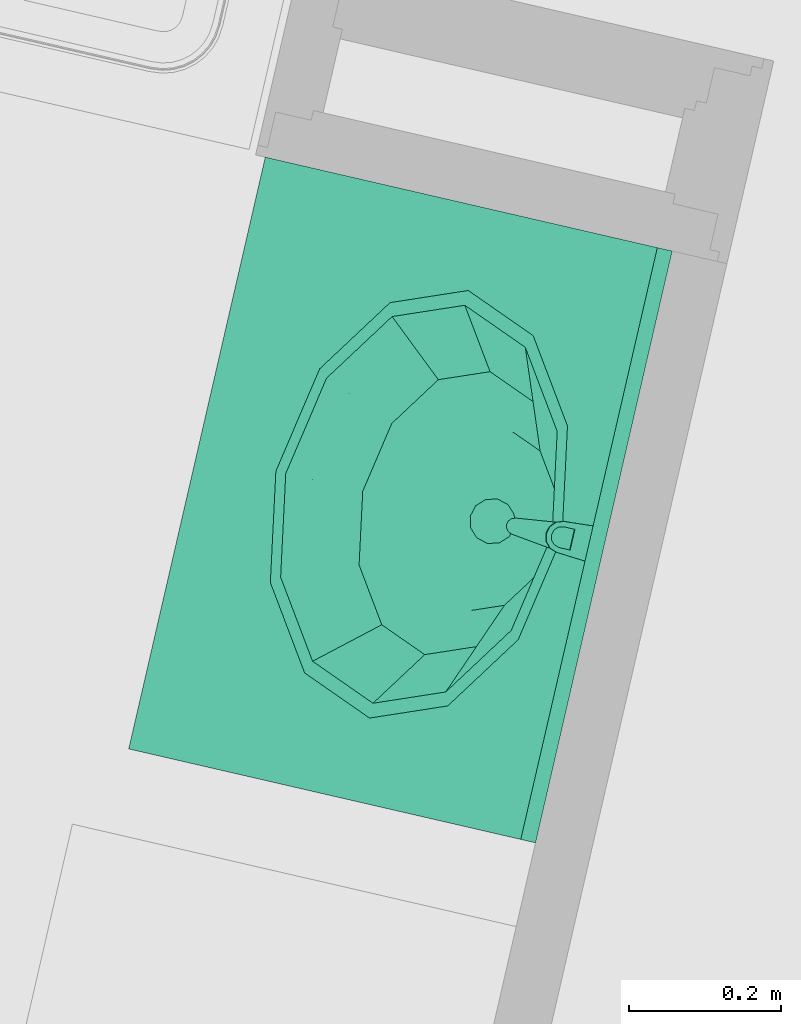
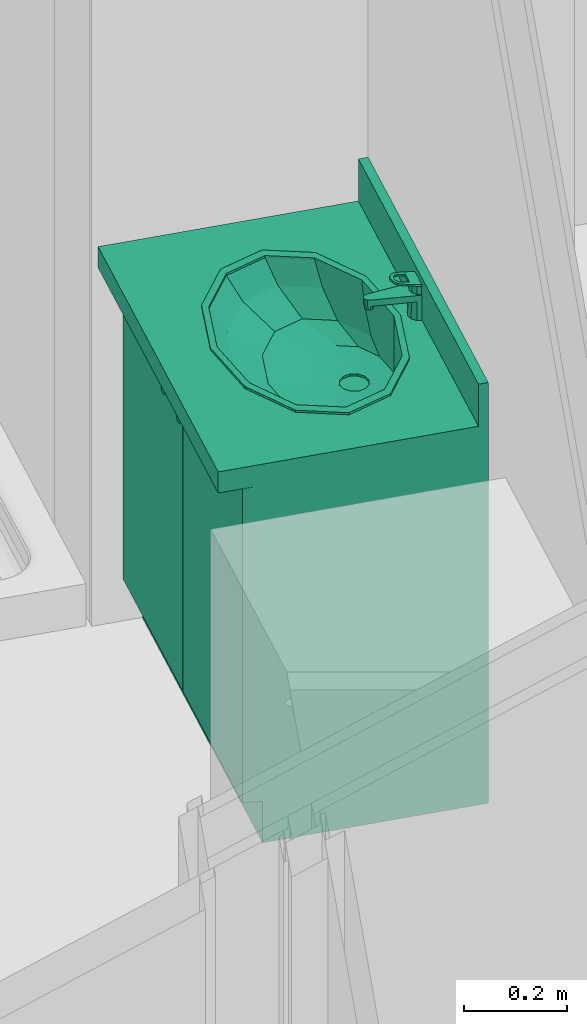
# One storey, part 72 of 91: 1 flow terminal.
"""IFC2X3 building model written with IfcOpenShell, lengths in metres."""

from ifc_helpers import new_model, entity, si_unit, converted_unit, derived_unit, money_unit, direction, frame, origin_with_axes, place, context, subcontext, project, spatial, open_shell, faceted_brep, surface_model, source, transform, mapped, type_object, element, save


model = new_model("IFC2X3")

# Units and contexts
model_context = context("Model", 3, precision=1e-05, world=origin_with_axes(), true_north=direction((0.0, 1.0)))
body_context = subcontext(model_context, "Body", "Model", "MODEL_VIEW")
ifc_project = project(units=[si_unit("LENGTHUNIT", "METRE"), si_unit("AREAUNIT", "SQUARE_METRE"), si_unit("VOLUMEUNIT", "CUBIC_METRE"), converted_unit("PLANEANGLEUNIT", "DEGREE", entity("IfcPlaneAngleMeasure", 0.0174532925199), si_unit("PLANEANGLEUNIT", "RADIAN"), dimensions=[0, 0, 0, 0, 0, 0, 0]), si_unit("SOLIDANGLEUNIT", "STERADIAN"), money_unit("EUR"), converted_unit("TIMEUNIT", "Year", entity("IfcTimeMeasure", 31556926.0), si_unit("TIMEUNIT", "SECOND"), dimensions=[0, 0, 1, 0, 0, 0, 0]), si_unit("MASSUNIT", "GRAM", prefix="KILO"), si_unit("THERMODYNAMICTEMPERATUREUNIT", "DEGREE_CELSIUS"), si_unit("LUMINOUSINTENSITYUNIT", "LUMEN"), si_unit("ENERGYUNIT", "JOULE", prefix="MEGA"), derived_unit("THERMALCONDUCTANCEUNIT", [(si_unit("POWERUNIT", "WATT"), 1), (si_unit("LENGTHUNIT", "METRE"), -1), (si_unit("THERMODYNAMICTEMPERATUREUNIT", "KELVIN"), -1)]), derived_unit("SPECIFICHEATCAPACITYUNIT", [(si_unit("ENERGYUNIT", "JOULE"), 1), (si_unit("MASSUNIT", "GRAM", prefix="KILO"), -1), (si_unit("THERMODYNAMICTEMPERATUREUNIT", "KELVIN"), -1)]), derived_unit("MASSDENSITYUNIT", [(si_unit("MASSUNIT", "GRAM", prefix="KILO"), 1), (si_unit("VOLUMEUNIT", "CUBIC_METRE"), -1)])], contexts=[model_context])

# Site, building, storey
site_placement = place(None, origin_with_axes())
site = spatial("IfcSite", under=ifc_project, at=site_placement, Name="Site", CompositionType="ELEMENT")
building_placement = place(site_placement, origin_with_axes())
building = spatial("IfcBuilding", under=site, at=building_placement, Name="Bâtiment", CompositionType="ELEMENT")
storey_placement = place(building_placement, frame((0.0, 0.0, 5.44), z_axis=(0.0, 0.0, 1.0), x_axis=(1.0, 0.0, 0.0)))
storey = spatial("IfcBuildingStorey", under=building, at=storey_placement, Name="R+2", CompositionType="ELEMENT", Elevation=5.44)

# Flow terminal
sanitary_terminal_type = type_object("IfcSanitaryTerminalType", Name="Lavabo sur meuble 23", PredefinedType="NOTDEFINED")
shared_shape = source(origin_with_axes(), body_context, "Body", "SurfaceModel", [
    faceted_brep([(0.0, 0.09, 0.0), (0.0, 0.09, 0.1), (-0.8, 0.09, 0.1), (-0.8, 0.09, 0.0), (0.0, 0.55, 0.0), (0.0, 0.55, 0.1), (-0.8, 0.55, 0.1), (-0.8, 0.55, 0.0)], [[[0, 1, 2, 3]], [[4, 5, 1, 0]], [[1, 5, 6, 2]], [[3, 2, 6, 7]], [[0, 3, 7, 4]], [[7, 6, 5, 4]]]),
    faceted_brep([(0.0, 0.07, 0.1), (0.0, 0.07, 0.12), (-0.02, 0.07, 0.12), (-0.02, 0.07, 0.1), (0.0, 0.55, 0.1), (0.0, 0.55, 0.12), (-0.02, 0.55, 0.12), (-0.78, 0.55, 0.12), (-0.8, 0.55, 0.12), (-0.8, 0.07, 0.12), (-0.78, 0.07, 0.12), (-0.78, 0.07, 0.1), (-0.8, 0.07, 0.1), (-0.8, 0.55, 0.1), (-0.78, 0.55, 0.1), (-0.02, 0.55, 0.1)], [[[0, 1, 2, 3]], [[4, 5, 1, 0]], [[1, 5, 6, 7, 8, 9, 10, 2]], [[3, 2, 10, 11]], [[0, 3, 11, 12, 13, 14, 15, 4]], [[15, 6, 5, 4]], [[14, 7, 6, 15]], [[13, 8, 7, 14]], [[12, 9, 8, 13]], [[11, 10, 9, 12]]]),
    faceted_brep([(0.0, 0.07, 0.12), (0.0, 0.07, 0.85), (-0.02, 0.07, 0.85), (-0.02, 0.07, 0.12), (0.0, 0.55, 0.12), (0.0, 0.55, 0.85), (-0.8, 0.55, 0.85), (-0.8, 0.07, 0.85), (-0.78, 0.07, 0.85), (-0.78, 0.53, 0.85), (-0.02, 0.53, 0.85), (-0.02, 0.53, 0.12), (-0.78, 0.53, 0.12), (-0.78, 0.07, 0.12), (-0.8, 0.07, 0.12), (-0.8, 0.55, 0.12)], [[[0, 1, 2, 3]], [[4, 5, 1, 0]], [[1, 5, 6, 7, 8, 9, 10, 2]], [[3, 2, 10, 11]], [[0, 3, 11, 12, 13, 14, 15, 4]], [[15, 6, 5, 4]], [[14, 7, 6, 15]], [[13, 8, 7, 14]], [[12, 9, 8, 13]], [[11, 10, 9, 12]]]),
    faceted_brep([(-0.78, 0.07, 0.323333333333), (-0.78, 0.07, 0.343333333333), (-0.78, 0.53, 0.343333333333), (-0.78, 0.53, 0.323333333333), (-0.02, 0.07, 0.323333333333), (-0.02, 0.07, 0.343333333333), (-0.02, 0.53, 0.343333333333), (-0.02, 0.53, 0.323333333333)], [[[0, 1, 2, 3]], [[4, 5, 1, 0]], [[1, 5, 6, 2]], [[3, 2, 6, 7]], [[0, 3, 7, 4]], [[7, 6, 5, 4]]]),
    faceted_brep([(-0.78, 0.07, 0.566666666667), (-0.78, 0.07, 0.586666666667), (-0.78, 0.53, 0.586666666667), (-0.78, 0.53, 0.566666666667), (-0.02, 0.07, 0.566666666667), (-0.02, 0.07, 0.586666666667), (-0.02, 0.53, 0.586666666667), (-0.02, 0.53, 0.566666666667)], [[[0, 1, 2, 3]], [[4, 5, 1, 0]], [[1, 5, 6, 2]], [[3, 2, 6, 7]], [[0, 3, 7, 4]], [[7, 6, 5, 4]]]),
    faceted_brep([(0.0, 0.55, 0.85), (0.0, 0.0, 0.85), (-0.8, 0.0, 0.85), (-0.8, 0.55, 0.85), (-0.535, 0.144115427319, 0.85), (-0.4, 0.12, 0.85), (-0.265, 0.144115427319, 0.85), (-0.166173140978, 0.21, 0.85), (-0.13, 0.3, 0.85), (-0.166173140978, 0.39, 0.85), (-0.265, 0.455884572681, 0.85), (-0.4, 0.48, 0.85), (-0.535, 0.455884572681, 0.85), (-0.633826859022, 0.39, 0.85), (-0.67, 0.3, 0.85), (-0.633826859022, 0.21, 0.85), (0.0, 0.55, 0.9), (0.0, 0.0, 0.9), (-0.8, 0.0, 0.9), (-0.8, 0.55, 0.9), (-0.4, 0.12, 0.9), (-0.535, 0.144115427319, 0.9), (-0.265, 0.144115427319, 0.9), (-0.166173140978, 0.21, 0.9), (-0.13, 0.3, 0.9), (-0.166173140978, 0.39, 0.9), (-0.265, 0.455884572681, 0.9), (-0.4, 0.48, 0.9), (-0.535, 0.455884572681, 0.9), (-0.633826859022, 0.39, 0.9), (-0.67, 0.3, 0.9), (-0.633826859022, 0.21, 0.9)], [[[0, 1, 2, 3], [4, 5, 6, 7, 8, 9, 10, 11, 12, 13, 14, 15]], [[1, 0, 16, 17]], [[2, 1, 17, 18]], [[3, 2, 18, 19]], [[0, 3, 19, 16]], [[20, 5, 4, 21]], [[22, 6, 5, 20]], [[23, 7, 6, 22]], [[24, 8, 7, 23]], [[25, 9, 8, 24]], [[26, 10, 9, 25]], [[27, 11, 10, 26]], [[28, 12, 11, 27]], [[29, 13, 12, 28]], [[30, 14, 13, 29]], [[31, 15, 14, 30]], [[21, 4, 15, 31]], [[18, 17, 16, 19], [28, 27, 26, 25, 24, 23, 22, 20, 21, 31, 30, 29]]]),
    faceted_brep([(0.0, 0.53, 0.9), (0.0, 0.53, 1.0), (-0.8, 0.53, 1.0), (-0.8, 0.53, 0.9), (0.0, 0.55, 0.9), (0.0, 0.55, 1.0), (-0.8, 0.55, 1.0), (-0.8, 0.55, 0.9)], [[[0, 1, 2, 3]], [[4, 5, 1, 0]], [[1, 5, 6, 2]], [[3, 2, 6, 7]], [[0, 3, 7, 4]], [[7, 6, 5, 4]]]),
    faceted_brep([(-0.689, 0.3, 0.905), (-0.650281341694, 0.396691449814, 0.905), (-0.650281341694, 0.396691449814, 0.9), (-0.689, 0.3, 0.9), (-0.650281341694, 0.203308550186, 0.905), (-0.5445, 0.132525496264, 0.905), (-0.4, 0.106617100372, 0.905), (-0.2555, 0.132525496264, 0.905), (-0.149718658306, 0.203308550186, 0.905), (-0.111, 0.3, 0.905), (-0.149718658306, 0.396691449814, 0.905), (-0.2555, 0.467474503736, 0.905), (-0.4, 0.493382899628, 0.905), (-0.5445, 0.467474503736, 0.905), (-0.669, 0.3, 0.905), (-0.632960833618, 0.39, 0.905), (-0.5345, 0.455884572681, 0.905), (-0.4, 0.48, 0.905), (-0.2655, 0.455884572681, 0.905), (-0.167039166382, 0.39, 0.905), (-0.131, 0.3, 0.905), (-0.167039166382, 0.21, 0.905), (-0.2655, 0.144115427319, 0.905), (-0.4, 0.12, 0.905), (-0.5345, 0.144115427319, 0.905), (-0.632960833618, 0.21, 0.905), (-0.5445, 0.467474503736, 0.9), (-0.4, 0.493382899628, 0.9), (-0.2555, 0.467474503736, 0.9), (-0.149718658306, 0.396691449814, 0.9), (-0.111, 0.3, 0.9), (-0.149718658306, 0.203308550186, 0.9), (-0.2555, 0.132525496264, 0.9), (-0.4, 0.106617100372, 0.9), (-0.5445, 0.132525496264, 0.9), (-0.650281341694, 0.203308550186, 0.9), (-0.669, 0.3, 0.9), (-0.632960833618, 0.21, 0.9), (-0.5345, 0.144115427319, 0.9), (-0.4, 0.12, 0.9), (-0.2655, 0.144115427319, 0.9), (-0.167039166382, 0.21, 0.9), (-0.131, 0.3, 0.9), (-0.167039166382, 0.39, 0.9), (-0.2655, 0.455884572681, 0.9), (-0.4, 0.48, 0.9), (-0.5345, 0.455884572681, 0.9), (-0.632960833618, 0.39, 0.9)], [[[0, 1, 2, 3]], [[0, 4, 5, 6, 7, 8, 9, 10, 11, 12, 13, 1], [14, 15, 16, 17, 18, 19, 20, 21, 22, 23, 24, 25]], [[1, 13, 26, 2]], [[3, 2, 26, 27, 28, 29, 30, 31, 32, 33, 34, 35], [36, 37, 38, 39, 40, 41, 42, 43, 44, 45, 46, 47]], [[4, 0, 3, 35]], [[5, 4, 35, 34]], [[6, 5, 34, 33]], [[7, 6, 33, 32]], [[8, 7, 32, 31]], [[9, 8, 31, 30]], [[10, 9, 30, 29]], [[11, 10, 29, 28]], [[12, 11, 28, 27]], [[13, 12, 27, 26]], [[15, 14, 36, 47]], [[16, 15, 47, 46]], [[17, 16, 46, 45]], [[18, 17, 45, 44]], [[19, 18, 44, 43]], [[20, 19, 43, 42]], [[21, 20, 42, 41]], [[22, 21, 41, 40]], [[23, 22, 40, 39]], [[24, 23, 39, 38]], [[25, 24, 38, 37]], [[14, 25, 37, 36]]]),
    surface_model("IfcShellBasedSurfaceModel", [(-0.4, 0.48, 0.9), (-0.5345, 0.455884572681, 0.9), (-0.52105, 0.458296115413, 0.848), (-0.4, 0.48, 0.848), (-0.632960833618, 0.39, 0.9), (-0.609664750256, 0.399, 0.848), (-0.2655, 0.455884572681, 0.9), (-0.27895, 0.458296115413, 0.848), (-0.669, 0.3, 0.9), (-0.6421, 0.318, 0.848), (-0.167039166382, 0.39, 0.9), (-0.190335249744, 0.399, 0.848), (-0.632960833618, 0.21, 0.9), (-0.609664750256, 0.237, 0.848), (-0.131, 0.3, 0.9), (-0.1579, 0.318, 0.848), (-0.5345, 0.144115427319, 0.9), (-0.52105, 0.177703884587, 0.848), (-0.167039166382, 0.21, 0.9), (-0.190335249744, 0.237, 0.848), (-0.4, 0.12, 0.9), (-0.4, 0.156, 0.848), (-0.2655, 0.144115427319, 0.9), (-0.27895, 0.177703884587, 0.848)], [open_shell([[[0, 1, 2, 3]], [[1, 4, 5, 2]], [[6, 0, 3, 7]], [[4, 8, 9, 5]], [[10, 6, 7, 11]], [[8, 12, 13, 9]], [[14, 10, 11, 15]], [[12, 16, 17, 13]], [[18, 14, 15, 19]], [[16, 20, 21, 17]], [[22, 18, 19, 23]], [[20, 22, 23, 21]]])]),
    surface_model("IfcShellBasedSurfaceModel", [(-0.4, 0.48, 0.848), (-0.52105, 0.458296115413, 0.848), (-0.4956295, 0.462853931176, 0.796), (-0.4, 0.48, 0.796), (-0.609664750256, 0.399, 0.848), (-0.565635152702, 0.41601, 0.796), (-0.27895, 0.458296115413, 0.848), (-0.3043705, 0.462853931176, 0.796), (-0.6421, 0.318, 0.848), (-0.591259, 0.35202, 0.796), (-0.190335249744, 0.399, 0.848), (-0.234364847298, 0.41601, 0.796), (-0.609664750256, 0.237, 0.848), (-0.565635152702, 0.28803, 0.796), (-0.1579, 0.318, 0.848), (-0.208741, 0.35202, 0.796), (-0.52105, 0.177703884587, 0.848), (-0.4956295, 0.241186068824, 0.796), (-0.190335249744, 0.237, 0.848), (-0.234364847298, 0.28803, 0.796), (-0.4, 0.156, 0.848), (-0.4, 0.22404, 0.796), (-0.27895, 0.177703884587, 0.848), (-0.3043705, 0.241186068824, 0.796)], [open_shell([[[0, 1, 2, 3]], [[1, 4, 5, 2]], [[6, 0, 3, 7]], [[4, 8, 9, 5]], [[10, 6, 7, 11]], [[8, 12, 13, 9]], [[14, 10, 11, 15]], [[12, 16, 17, 13]], [[18, 14, 15, 19]], [[16, 20, 21, 17]], [[22, 18, 19, 23]], [[20, 22, 23, 21]]])]),
    surface_model("IfcShellBasedSurfaceModel", [(-0.4, 0.48, 0.796), (-0.4956295, 0.462853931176, 0.796), (-0.460246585, 0.469197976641, 0.77), (-0.4, 0.48, 0.77), (-0.565635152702, 0.41601, 0.796), (-0.504350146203, 0.4396863, 0.77), (-0.3043705, 0.462853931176, 0.796), (-0.339753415, 0.469197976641, 0.77), (-0.591259, 0.35202, 0.796), (-0.52049317, 0.3993726, 0.77), (-0.234364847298, 0.41601, 0.796), (-0.295649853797, 0.4396863, 0.77), (-0.565635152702, 0.28803, 0.796), (-0.504350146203, 0.3590589, 0.77), (-0.208741, 0.35202, 0.796), (-0.27950683, 0.3993726, 0.77), (-0.4956295, 0.241186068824, 0.796), (-0.460246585, 0.329547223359, 0.77), (-0.234364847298, 0.28803, 0.796), (-0.295649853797, 0.3590589, 0.77), (-0.4, 0.22404, 0.796), (-0.4, 0.3187452, 0.77), (-0.3043705, 0.241186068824, 0.796), (-0.339753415, 0.329547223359, 0.77)], [open_shell([[[0, 1, 2, 3]], [[1, 4, 5, 2]], [[6, 0, 3, 7]], [[4, 8, 9, 5]], [[10, 6, 7, 11]], [[8, 12, 13, 9]], [[14, 10, 11, 15]], [[12, 16, 17, 13]], [[18, 14, 15, 19]], [[16, 20, 21, 17]], [[22, 18, 19, 23]], [[20, 22, 23, 21]]])]),
    surface_model("IfcShellBasedSurfaceModel", [(-0.4, 0.48, 0.77), (-0.460246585, 0.469197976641, 0.77), (-0.415, 0.425353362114, 0.763), (-0.425980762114, 0.4143726, 0.763), (-0.4, 0.4293726, 0.763), (-0.504350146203, 0.4396863, 0.77), (-0.339753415, 0.469197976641, 0.77), (-0.43, 0.3993726, 0.763), (-0.385, 0.425353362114, 0.763), (-0.52049317, 0.3993726, 0.77), (-0.295649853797, 0.4396863, 0.77), (-0.425980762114, 0.3843726, 0.763), (-0.374019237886, 0.4143726, 0.763), (-0.504350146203, 0.3590589, 0.77), (-0.27950683, 0.3993726, 0.77), (-0.415, 0.373391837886, 0.763), (-0.37, 0.3993726, 0.763), (-0.460246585, 0.329547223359, 0.77), (-0.295649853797, 0.3590589, 0.77), (-0.4, 0.3693726, 0.763), (-0.374019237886, 0.3843726, 0.763), (-0.4, 0.3187452, 0.77), (-0.339753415, 0.329547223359, 0.77), (-0.385, 0.373391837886, 0.763)], [open_shell([[[0, 1, 2]], [[1, 3, 2]], [[0, 2, 4]], [[1, 5, 3]], [[6, 0, 4]], [[5, 7, 3]], [[6, 4, 8]], [[5, 9, 7]], [[10, 6, 8]], [[9, 11, 7]], [[10, 8, 12]], [[9, 13, 11]], [[14, 10, 12]], [[13, 15, 11]], [[14, 12, 16]], [[13, 17, 15]], [[18, 14, 16]], [[17, 19, 15]], [[18, 16, 20]], [[17, 21, 19]], [[22, 18, 20]], [[21, 23, 19]], [[22, 20, 23]], [[21, 22, 23]]])]),
    surface_model("IfcShellBasedSurfaceModel", [(-0.43, 0.3993726, 0.763), (-0.425980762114, 0.4143726, 0.763), (-0.425980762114, 0.4143726, 0.758), (-0.43, 0.3993726, 0.758), (-0.415, 0.425353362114, 0.763), (-0.415, 0.425353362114, 0.758), (-0.4, 0.4293726, 0.758), (-0.385, 0.425353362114, 0.758), (-0.374019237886, 0.4143726, 0.758), (-0.37, 0.3993726, 0.758), (-0.374019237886, 0.3843726, 0.758), (-0.385, 0.373391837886, 0.758), (-0.4, 0.3693726, 0.758), (-0.415, 0.373391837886, 0.758), (-0.425980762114, 0.3843726, 0.758), (-0.425980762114, 0.3843726, 0.763), (-0.4, 0.4293726, 0.763), (-0.385, 0.425353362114, 0.763), (-0.374019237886, 0.4143726, 0.763), (-0.37, 0.3993726, 0.763), (-0.374019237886, 0.3843726, 0.763), (-0.385, 0.373391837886, 0.763), (-0.4, 0.3693726, 0.763), (-0.415, 0.373391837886, 0.763)], [open_shell([[[0, 1, 2, 3]], [[1, 4, 5, 2]], [[3, 2, 5, 6, 7, 8, 9, 10, 11, 12, 13, 14]], [[15, 0, 3, 14]], [[4, 16, 6, 5]], [[16, 17, 7, 6]], [[17, 18, 8, 7]], [[18, 19, 9, 8]], [[19, 20, 10, 9]], [[20, 21, 11, 10]], [[21, 22, 12, 11]], [[22, 23, 13, 12]], [[23, 15, 14, 13]]])]),
    faceted_brep([(-0.4125, 0.554150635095, 0.9), (-0.410587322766, 0.550837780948, 0.976507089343), (-0.4, 0.553701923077, 0.975961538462), (-0.4, 0.5575, 0.9), (-0.421650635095, 0.545, 0.9), (-0.418273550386, 0.543050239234, 0.977990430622), (-0.421, 0.5325, 0.98), (-0.418100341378, 0.522049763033, 0.981990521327), (-0.410414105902, 0.514462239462, 0.983435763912), (-0.4, 0.511698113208, 0.983962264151), (-0.389585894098, 0.514462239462, 0.983435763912), (-0.381899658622, 0.522049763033, 0.981990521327), (-0.379, 0.5325, 0.98), (-0.381726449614, 0.543050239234, 0.977990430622), (-0.389412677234, 0.550837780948, 0.976507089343), (-0.3875, 0.554150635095, 0.9), (-0.378349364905, 0.545, 0.9), (-0.375, 0.5325, 0.9), (-0.378349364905, 0.52, 0.9), (-0.3875, 0.510849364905, 0.9), (-0.4, 0.5075, 0.9), (-0.4125, 0.510849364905, 0.9), (-0.421650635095, 0.52, 0.9), (-0.425, 0.5325, 0.9)], [[[0, 1, 2, 3]], [[4, 5, 1, 0]], [[1, 5, 6, 7, 8, 9, 10, 11, 12, 13, 14, 2]], [[3, 2, 14, 15]], [[0, 3, 15, 16, 17, 18, 19, 20, 21, 22, 23, 4]], [[23, 6, 5, 4]], [[22, 7, 6, 23]], [[21, 8, 7, 22]], [[20, 9, 8, 21]], [[19, 10, 9, 20]], [[18, 11, 10, 19]], [[17, 12, 11, 18]], [[16, 13, 12, 17]], [[15, 14, 13, 16]]]),
    faceted_brep([(-0.409, 0.4295, 0.935), (-0.409, 0.4295, 0.945), (-0.407794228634, 0.434, 0.945), (-0.407794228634, 0.434, 0.935), (-0.407794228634, 0.425, 0.935), (-0.407794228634, 0.425, 0.945), (-0.4045, 0.421705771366, 0.945), (-0.4, 0.4205, 0.945), (-0.3955, 0.421705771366, 0.945), (-0.392205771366, 0.425, 0.945), (-0.391, 0.4295, 0.945), (-0.392205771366, 0.434, 0.945), (-0.3955, 0.437294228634, 0.945), (-0.4, 0.4385, 0.945), (-0.4045, 0.437294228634, 0.945), (-0.4045, 0.437294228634, 0.935), (-0.4, 0.4385, 0.935), (-0.3955, 0.437294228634, 0.935), (-0.392205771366, 0.434, 0.935), (-0.391, 0.4295, 0.935), (-0.392205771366, 0.425, 0.935), (-0.3955, 0.421705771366, 0.935), (-0.4, 0.4205, 0.935), (-0.4045, 0.421705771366, 0.935)], [[[0, 1, 2, 3]], [[4, 5, 1, 0]], [[1, 5, 6, 7, 8, 9, 10, 11, 12, 13, 14, 2]], [[3, 2, 14, 15]], [[0, 3, 15, 16, 17, 18, 19, 20, 21, 22, 23, 4]], [[23, 6, 5, 4]], [[22, 7, 6, 23]], [[21, 8, 7, 22]], [[20, 9, 8, 21]], [[19, 10, 9, 20]], [[18, 11, 10, 19]], [[17, 12, 11, 18]], [[16, 13, 12, 17]], [[15, 14, 13, 16]]]),
    faceted_brep([(-0.387128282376, 0.552756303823, 0.96), (-0.40000000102, 0.556499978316, 0.96), (-0.412871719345, 0.552756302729, 0.96), (-0.421727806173, 0.542693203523, 0.96), (-0.423805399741, 0.529450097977, 0.96), (-0.410912, 0.4281117, 0.96), (-0.409028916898, 0.423216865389, 0.96), (-0.405093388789, 0.419750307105, 0.96), (-0.400000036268, 0.41850003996, 0.96), (-0.394906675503, 0.419750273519, 0.96), (-0.390971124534, 0.423216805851, 0.96), (-0.389088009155, 0.428111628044, 0.96), (-0.3761946, 0.5294501, 0.96), (-0.378272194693, 0.54269320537, 0.96), (-0.411, 0.551552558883, 0.96), (-0.4, 0.5545, 0.96), (-0.389, 0.551552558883, 0.96), (-0.380947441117, 0.5435, 0.96), (-0.378, 0.5325, 0.96), (-0.380947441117, 0.5215, 0.96), (-0.389, 0.513447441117, 0.96), (-0.4, 0.5105, 0.96), (-0.411, 0.513447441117, 0.96), (-0.419052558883, 0.5215, 0.96), (-0.422, 0.5325, 0.96), (-0.419052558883, 0.5435, 0.96), (-0.387128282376, 0.552756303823, 0.945), (-0.40000000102, 0.556499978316, 0.945), (-0.412871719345, 0.552756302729, 0.945), (-0.421727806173, 0.542693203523, 0.945), (-0.423805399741, 0.529450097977, 0.945), (-0.410912, 0.4281117, 0.945), (-0.409028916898, 0.423216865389, 0.945), (-0.405093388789, 0.419750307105, 0.945), (-0.400000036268, 0.41850003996, 0.945), (-0.394906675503, 0.419750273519, 0.945), (-0.390971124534, 0.423216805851, 0.945), (-0.389088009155, 0.428111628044, 0.945), (-0.3761946, 0.5294501, 0.945), (-0.378272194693, 0.54269320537, 0.945), (-0.4, 0.55525, 0.945), (-0.411375, 0.552202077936, 0.945), (-0.388625, 0.552202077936, 0.945), (-0.380297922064, 0.543875, 0.945), (-0.37725, 0.5325, 0.945), (-0.380297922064, 0.521125, 0.945), (-0.388625, 0.512797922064, 0.945), (-0.4, 0.50975, 0.945), (-0.411375, 0.512797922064, 0.945), (-0.419702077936, 0.521125, 0.945), (-0.42275, 0.5325, 0.945), (-0.419702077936, 0.543875, 0.945)], [[[0, 1, 2, 3, 4, 5, 6, 7, 8, 9, 10, 11, 12, 13], [14, 15, 16, 17, 18, 19, 20, 21, 22, 23, 24, 25]], [[26, 27, 1, 0]], [[27, 28, 2, 1]], [[28, 29, 3, 2]], [[29, 30, 4, 3]], [[30, 31, 5, 4]], [[31, 32, 6, 5]], [[32, 33, 7, 6]], [[33, 34, 8, 7]], [[34, 35, 9, 8]], [[35, 36, 10, 9]], [[36, 37, 11, 10]], [[37, 38, 12, 11]], [[38, 39, 13, 12]], [[39, 26, 0, 13]], [[40, 15, 14, 41]], [[42, 16, 15, 40]], [[16, 42, 43, 17]], [[17, 43, 44, 18]], [[18, 44, 45, 19]], [[19, 45, 46, 20]], [[20, 46, 47, 21]], [[48, 22, 21, 47]], [[49, 23, 22, 48]], [[50, 24, 23, 49]], [[51, 25, 24, 50]], [[41, 14, 25, 51]], [[34, 33, 32, 31, 30, 29, 28, 27, 26, 39, 38, 37, 36, 35], [48, 47, 46, 45, 44, 43, 42, 40, 41, 51, 50, 49]]]),
    faceted_brep([(-0.423893, 0.53080743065, 0.980322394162), (-0.423893, 0.531555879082, 0.984251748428), (-0.421296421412, 0.544023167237, 0.981877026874), (-0.421296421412, 0.543274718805, 0.977947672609), (-0.420945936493, 0.490663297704, 0.987968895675), (-0.420945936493, 0.491411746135, 0.991898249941), (-0.417663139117, 0.48173408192, 0.993741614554), (-0.410061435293, 0.47478470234, 0.995065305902), (-0.399999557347, 0.472262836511, 0.995545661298), (-0.389937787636, 0.474785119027, 0.995065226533), (-0.382336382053, 0.481734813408, 0.993741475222), (-0.379054, 0.491412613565, 0.991898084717), (-0.376106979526, 0.531556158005, 0.984251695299), (-0.378703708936, 0.544023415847, 0.98187697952), (-0.38752831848, 0.553339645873, 0.980102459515), (-0.400000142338, 0.556780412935, 0.979447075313), (-0.41247192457, 0.553339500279, 0.980102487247), (-0.414, 0.507707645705, 0.988794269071), (-0.386, 0.507707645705, 0.988794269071), (-0.386, 0.492892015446, 0.991616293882), (-0.387875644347, 0.486015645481, 0.992926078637), (-0.393, 0.480981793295, 0.993884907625), (-0.4, 0.479139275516, 0.994235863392), (-0.407, 0.480981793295, 0.993884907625), (-0.412124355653, 0.486015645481, 0.992926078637), (-0.414, 0.492892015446, 0.991616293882), (-0.41247192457, 0.552591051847, 0.976173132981), (-0.400000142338, 0.556031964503, 0.975517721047), (-0.38752831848, 0.552591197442, 0.976173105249), (-0.378703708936, 0.543274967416, 0.977947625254), (-0.376106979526, 0.530807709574, 0.980322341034), (-0.379054, 0.490664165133, 0.987968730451), (-0.382336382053, 0.480986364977, 0.989812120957), (-0.389937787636, 0.474036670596, 0.991135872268), (-0.399999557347, 0.47151438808, 0.991616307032), (-0.410061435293, 0.474036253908, 0.991135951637), (-0.417663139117, 0.480985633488, 0.989812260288), (-0.414, 0.506959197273, 0.984864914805), (-0.414, 0.492143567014, 0.987686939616), (-0.412124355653, 0.485267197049, 0.988996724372), (-0.407, 0.480233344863, 0.989955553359), (-0.4, 0.478390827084, 0.990306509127), (-0.393, 0.480233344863, 0.989955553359), (-0.387875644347, 0.485267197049, 0.988996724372), (-0.386, 0.492143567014, 0.987686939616), (-0.386, 0.506959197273, 0.984864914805)], [[[0, 1, 2, 3]], [[4, 5, 1, 0]], [[1, 5, 6, 7, 8, 9, 10, 11, 12, 13, 14, 15, 16, 2], [17, 18, 19, 20, 21, 22, 23, 24, 25]], [[3, 2, 16, 26]], [[0, 3, 26, 27, 28, 29, 30, 31, 32, 33, 34, 35, 36, 4], [37, 38, 39, 40, 41, 42, 43, 44, 45]], [[36, 6, 5, 4]], [[35, 7, 6, 36]], [[34, 8, 7, 35]], [[33, 9, 8, 34]], [[32, 10, 9, 33]], [[31, 11, 10, 32]], [[30, 12, 11, 31]], [[29, 13, 12, 30]], [[28, 14, 13, 29]], [[27, 15, 14, 28]], [[26, 16, 15, 27]], [[45, 18, 17, 37]], [[44, 19, 18, 45]], [[43, 20, 19, 44]], [[42, 21, 20, 43]], [[41, 22, 21, 42]], [[40, 23, 22, 41]], [[39, 24, 23, 40]], [[38, 25, 24, 39]], [[37, 17, 25, 38]]]),
    faceted_brep([(-0.0015, 0.07, 0.1015), (-0.0015, 0.05, 0.1015), (-0.3985, 0.05, 0.1015), (-0.3985, 0.07, 0.1015), (-0.0015, 0.07, 0.8485), (-0.0015, 0.05, 0.8485), (-0.3985, 0.05, 0.8485), (-0.3985, 0.07, 0.8485)], [[[0, 1, 2, 3]], [[4, 5, 1, 0]], [[1, 5, 6, 2]], [[3, 2, 6, 7]], [[0, 3, 7, 4]], [[7, 6, 5, 4]]]),
    faceted_brep([(-0.358892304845, 0.05, 0.7855), (-0.3605, 0.05, 0.7915), (-0.358892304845, 0.05, 0.7975), (-0.3545, 0.05, 0.801892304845), (-0.3485, 0.05, 0.8035), (-0.3425, 0.05, 0.801892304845), (-0.338107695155, 0.05, 0.7975), (-0.3365, 0.05, 0.7915), (-0.338107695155, 0.05, 0.7855), (-0.3425, 0.05, 0.781107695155), (-0.3485, 0.05, 0.7795), (-0.3545, 0.05, 0.781107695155), (-0.358892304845, 0.025, 0.7855), (-0.3605, 0.025, 0.7915), (-0.358892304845, 0.025, 0.7975), (-0.3545, 0.025, 0.801892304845), (-0.3485, 0.025, 0.8035), (-0.3425, 0.025, 0.801892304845), (-0.338107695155, 0.025, 0.7975), (-0.3365, 0.025, 0.7915), (-0.338107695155, 0.025, 0.7855), (-0.3425, 0.025, 0.781107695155), (-0.3485, 0.025, 0.7795), (-0.3545, 0.025, 0.781107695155)], [[[0, 1, 2, 3, 4, 5, 6, 7, 8, 9, 10, 11]], [[0, 12, 13, 1]], [[1, 13, 14, 2]], [[2, 14, 15, 3]], [[3, 15, 16, 4]], [[4, 16, 17, 5]], [[5, 17, 18, 6]], [[6, 18, 19, 7]], [[7, 19, 20, 8]], [[8, 20, 21, 9]], [[9, 21, 22, 10]], [[10, 22, 23, 11]], [[11, 23, 12, 0]], [[12, 23, 22, 21, 20, 19, 18, 17, 16, 15, 14, 13]]]),
    faceted_brep([(-0.7985, 0.07, 0.1015), (-0.4015, 0.07, 0.1015), (-0.4015, 0.05, 0.1015), (-0.7985, 0.05, 0.1015), (-0.7985, 0.07, 0.8485), (-0.4015, 0.07, 0.8485), (-0.4015, 0.05, 0.8485), (-0.7985, 0.05, 0.8485)], [[[0, 1, 2, 3]], [[0, 4, 5, 1]], [[1, 5, 6, 2]], [[3, 2, 6, 7]], [[4, 0, 3, 7]], [[5, 4, 7, 6]]]),
    faceted_brep([(-0.441107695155, 0.05, 0.7855), (-0.4455, 0.05, 0.781107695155), (-0.4515, 0.05, 0.7795), (-0.4575, 0.05, 0.781107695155), (-0.461892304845, 0.05, 0.7855), (-0.4635, 0.05, 0.7915), (-0.461892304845, 0.05, 0.7975), (-0.4575, 0.05, 0.801892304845), (-0.4515, 0.05, 0.8035), (-0.4455, 0.05, 0.801892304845), (-0.441107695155, 0.05, 0.7975), (-0.4395, 0.05, 0.7915), (-0.441107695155, 0.025, 0.7855), (-0.4455, 0.025, 0.781107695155), (-0.4515, 0.025, 0.7795), (-0.4575, 0.025, 0.781107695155), (-0.461892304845, 0.025, 0.7855), (-0.4635, 0.025, 0.7915), (-0.461892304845, 0.025, 0.7975), (-0.4575, 0.025, 0.801892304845), (-0.4515, 0.025, 0.8035), (-0.4455, 0.025, 0.801892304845), (-0.441107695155, 0.025, 0.7975), (-0.4395, 0.025, 0.7915)], [[[0, 1, 2, 3, 4, 5, 6, 7, 8, 9, 10, 11]], [[1, 0, 12, 13]], [[2, 1, 13, 14]], [[3, 2, 14, 15]], [[4, 3, 15, 16]], [[5, 4, 16, 17]], [[6, 5, 17, 18]], [[7, 6, 18, 19]], [[8, 7, 19, 20]], [[9, 8, 20, 21]], [[10, 9, 21, 22]], [[11, 10, 22, 23]], [[0, 11, 23, 12]], [[12, 23, 22, 21, 20, 19, 18, 17, 16, 15, 14, 13]]]),
])
flow_terminal_placement = place(storey_placement, frame((-9.81288364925, -11.1722103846, 0.0), z_axis=(0.0, 0.0, 1.0), x_axis=(-0.224876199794, -0.974387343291, 0.0)))
element("IfcFlowTerminal", 1, at=flow_terminal_placement, inside=storey, type_object=sanitary_terminal_type, Name="MOB-002", ObjectType="SANITARY_TERMINAL", context=body_context, shape_type="MappedRepresentation", body=[
    mapped(shared_shape, transform((0.0, 0.0, 0.0))),
])

save(model, "model.ifc")
